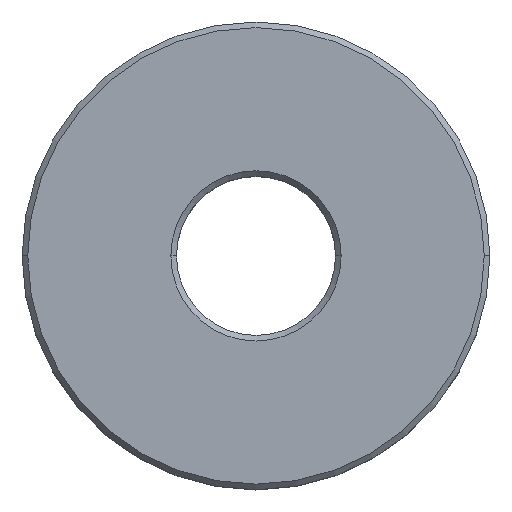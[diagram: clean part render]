
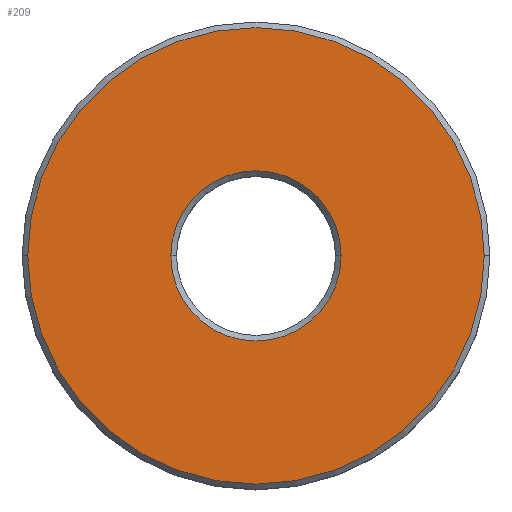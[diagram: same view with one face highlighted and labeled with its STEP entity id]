
A CAD part, top view. The second image highlights one B-rep face of the part: STEP entity #209.
In plain terms, the highlighted planar face has unit normal (0, 0, 1).
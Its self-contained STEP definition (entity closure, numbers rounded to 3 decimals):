
#12 = EDGE_CURVE ( 'NONE', #272, #246, #331, .T. ) ;
#13 = DIRECTION ( 'NONE',  ( 1., 0., 0. ) ) ;
#19 = ORIENTED_EDGE ( 'NONE', *, *, #12, .T. ) ;
#22 = PLANE ( 'NONE',  #321 ) ;
#34 = EDGE_CURVE ( 'NONE', #161, #402, #78, .T. ) ;
#48 = DIRECTION ( 'NONE',  ( 0., 0., -1. ) ) ;
#52 = DIRECTION ( 'NONE',  ( 0., 0., 1. ) ) ;
#53 = CARTESIAN_POINT ( 'NONE',  ( 12.2, 0., 8. ) ) ;
#54 = DIRECTION ( 'NONE',  ( 0., 0., -1. ) ) ;
#68 = CARTESIAN_POINT ( 'NONE',  ( -12.2, 0., 8. ) ) ;
#73 = AXIS2_PLACEMENT_3D ( 'NONE', #410, #231, #374 ) ;
#78 = CIRCLE ( 'NONE', #274, 12.2 ) ;
#81 = CARTESIAN_POINT ( 'NONE',  ( 0., 0., 8. ) ) ;
#83 = EDGE_CURVE ( 'NONE', #246, #272, #185, .T. ) ;
#85 = CARTESIAN_POINT ( 'NONE',  ( 0., 0., 8. ) ) ;
#89 = ORIENTED_EDGE ( 'NONE', *, *, #34, .T. ) ;
#92 = DIRECTION ( 'NONE',  ( 1., 0., 0. ) ) ;
#143 = CARTESIAN_POINT ( 'NONE',  ( 0., 0., 8. ) ) ;
#153 = CARTESIAN_POINT ( 'NONE',  ( 0., 0., 8. ) ) ;
#154 = CARTESIAN_POINT ( 'NONE',  ( 4.55, 0., 8. ) ) ;
#161 = VERTEX_POINT ( 'NONE', #53 ) ;
#185 = CIRCLE ( 'NONE', #252, 4.55 ) ;
#193 = DIRECTION ( 'NONE',  ( 0., 0., 1. ) ) ;
#202 = ORIENTED_EDGE ( 'NONE', *, *, #360, .T. ) ;
#209 = ADVANCED_FACE ( 'NONE', ( #260, #216 ), #22, .T. ) ;
#216 = FACE_OUTER_BOUND ( 'NONE', #393, .T. ) ;
#231 = DIRECTION ( 'NONE',  ( 0., 0., 1. ) ) ;
#246 = VERTEX_POINT ( 'NONE', #378 ) ;
#252 = AXIS2_PLACEMENT_3D ( 'NONE', #85, #54, #92 ) ;
#260 = FACE_BOUND ( 'NONE', #379, .T. ) ;
#272 = VERTEX_POINT ( 'NONE', #154 ) ;
#274 = AXIS2_PLACEMENT_3D ( 'NONE', #143, #52, #13 ) ;
#291 = AXIS2_PLACEMENT_3D ( 'NONE', #81, #48, #367 ) ;
#294 = CIRCLE ( 'NONE', #73, 12.2 ) ;
#321 = AXIS2_PLACEMENT_3D ( 'NONE', #153, #193, #407 ) ;
#331 = CIRCLE ( 'NONE', #291, 4.55 ) ;
#360 = EDGE_CURVE ( 'NONE', #402, #161, #294, .T. ) ;
#367 = DIRECTION ( 'NONE',  ( 1., 0., 0. ) ) ;
#374 = DIRECTION ( 'NONE',  ( 1., 0., 0. ) ) ;
#378 = CARTESIAN_POINT ( 'NONE',  ( -4.55, 0., 8. ) ) ;
#379 = EDGE_LOOP ( 'NONE', ( #19, #408 ) ) ;
#393 = EDGE_LOOP ( 'NONE', ( #202, #89 ) ) ;
#402 = VERTEX_POINT ( 'NONE', #68 ) ;
#407 = DIRECTION ( 'NONE',  ( 1., 0., 0. ) ) ;
#408 = ORIENTED_EDGE ( 'NONE', *, *, #83, .T. ) ;
#410 = CARTESIAN_POINT ( 'NONE',  ( 0., 0., 8. ) ) ;
